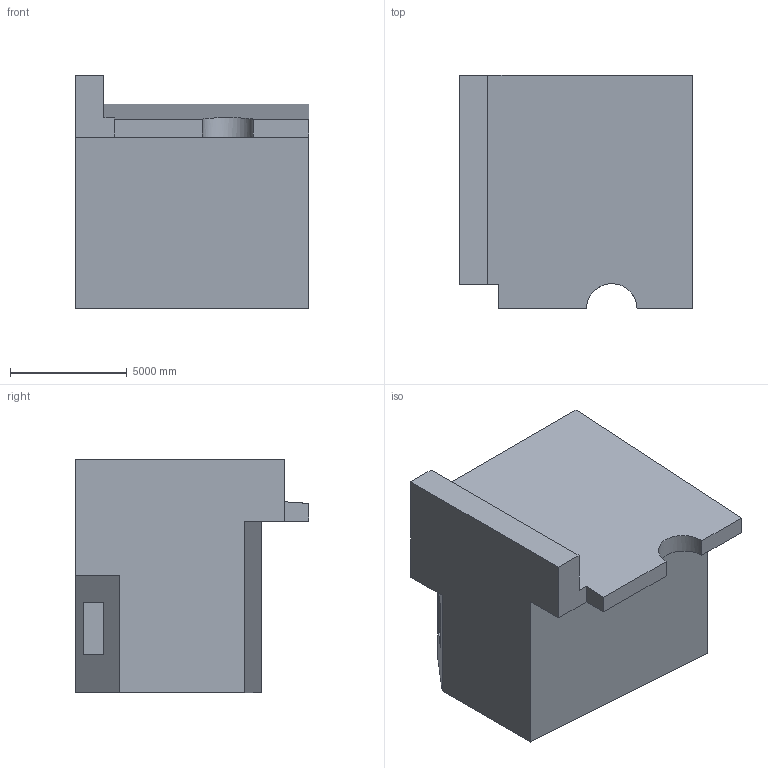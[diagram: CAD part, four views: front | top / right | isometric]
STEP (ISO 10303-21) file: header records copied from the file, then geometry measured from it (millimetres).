
FILE_DESCRIPTION (( 'STEP AP203' ), '1' );
FILE_NAME ('1745.STEP', '2022-08-19T12:19:33', ( 'user' ), ( '' ), 'SwSTEP 2.0', 'SolidWorks 2021', '' );
FILE_SCHEMA (( 'CONFIG_CONTROL_DESIGN' ));
Length unit declared in the file: centimetre
Products named in the file (1): 1745
Bounding box: 10000 x 10000 x 10000 mm (x, y, z)
Volume: 649496167127.8 mm3; surface area: 579797147 mm2
Topology: 1 solids, 1 shells, 31 faces, 78 edges, 52 vertices
Faces by surface type: plane 30, cylinder 1
Entity records: 990 total; most frequent: CARTESIAN_POINT 165, ORIENTED_EDGE 156, DIRECTION 142, EDGE_CURVE 78, VECTOR 76, LINE 76, VERTEX_POINT 52, EDGE_LOOP 34
